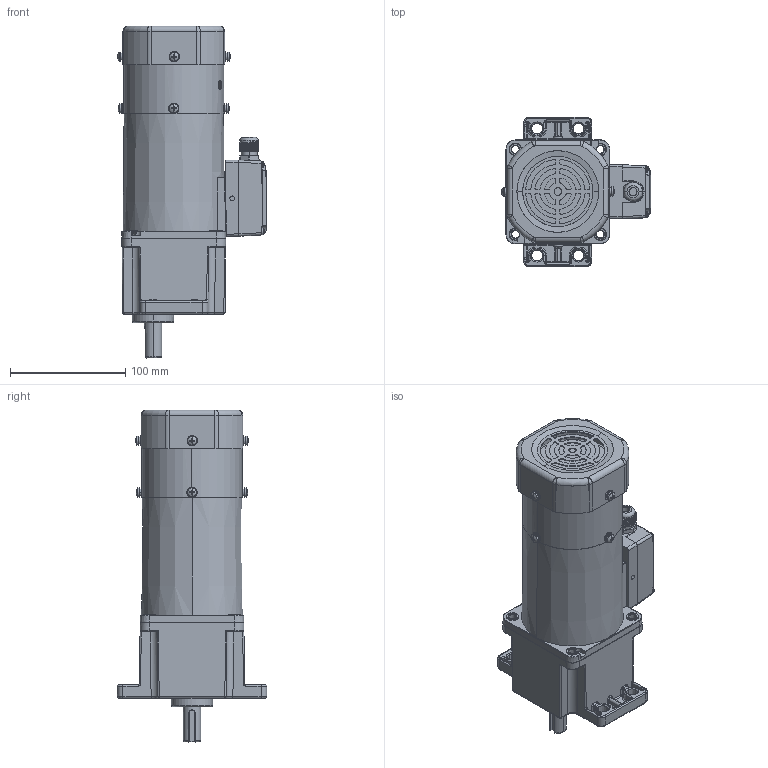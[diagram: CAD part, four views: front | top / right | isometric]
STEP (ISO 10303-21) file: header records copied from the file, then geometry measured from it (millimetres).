
FILE_DESCRIPTION (( 'STEP AP203' ), '1' );
FILE_NAME ('5RK120GU-CMFT(5GU3K-200K).STEP', '2023-08-09T02:53:14', ( 'Windows User' ), ( 'P R C' ), 'SwSTEP 2.0', 'SolidWorks 2019', '' );
FILE_SCHEMA (( 'CONFIG_CONTROL_DESIGN' ));
Length unit declared in the file: millimetre
Products named in the file (15): ^_5GU3K-200K_5RK120GU-CMFT(5GU3K-200K)(2)_5RK120GU-CMFT(5GU3K-200K); 5RK120GU-CMFT(5GU3K-200K); ^5RK120GU-CMFT(5GU3K-200K)(2)_5RK120GU-CMFT(5GU3K-200K); ^5GU3K-200K_5RK120GU-CMFT(5GU3K-200K)(2)_5RK120GU-CMFT(5GU3K-200K); ^___5RK120GU-CMFT(5GU3K-200K)(2)_5RK120GU-CMFT(5GU3K-200K); 5RK120GU-CMFT(5GU3K-200K)(2)^5RK120GU-CMFT(5GU3K-200K); 葩璃 (3) ^__5RK120GU-CMFT(5GU3K-200K)(2)_5RK120GU-CMFT(5GU3K-200K); 葩璃 (2) ^__5RK120GU-CMFT(5GU3K-200K)(2)_5RK120GU-CMFT(5GU3K-200K); ^__5RK120GU-CMFT(5GU3K-200K)(2)_5RK120GU-CMFT(5GU3K-200K); ^____5RK120GU-CMFT(5GU3K-200K)(2)_5RK120GU-CMFT(5GU3K-200K); 葩璃 (3) ^____5RK120GU-CMFT(5GU3K-200K)(2)_5RK120GU-CMFT(5GU3K-200K); 5GU3K-200K^5RK120GU-CMFT(5GU3K-200K)(2)_5RK120GU-CMFT(5GU3K-200K); ^_5RK120GU-CMFT(5GU3K-200K)(2)_5RK120GU-CMFT(5GU3K-200K); 葩璃 (2) ^____5RK120GU-CMFT(5GU3K-200K)(2)_5RK120GU-CMFT(5GU3K-200K)
Assembly tree (17 placements, depth 7):
  5RK120GU-CMFT(5GU3K-200K)
    5RK120GU-CMFT(5GU3K-200K)(2)^5RK120GU-CMFT(5GU3K-200K)
      ^5RK120GU-CMFT(5GU3K-200K)(2)_5RK120GU-CMFT(5GU3K-200K)
        ^_5RK120GU-CMFT(5GU3K-200K)(2)_5RK120GU-CMFT(5GU3K-200K)
          ^__5RK120GU-CMFT(5GU3K-200K)(2)_5RK120GU-CMFT(5GU3K-200K)
            ^___5RK120GU-CMFT(5GU3K-200K)(2)_5RK120GU-CMFT(5GU3K-200K)
              ^____5RK120GU-CMFT(5GU3K-200K)(2)_5RK120GU-CMFT(5GU3K-200K)
              葩璃 (2) ^____5RK120GU-CMFT(5GU3K-200K)(2)_5RK120GU-CMFT(5GU3K-200K)
              葩璃 (3) ^____5RK120GU-CMFT(5GU3K-200K)(2)_5RK120GU-CMFT(5GU3K-200K)  x4
          ^__5RK120GU-CMFT(5GU3K-200K)(2)_5RK120GU-CMFT(5GU3K-200K)
          葩璃 (2) ^__5RK120GU-CMFT(5GU3K-200K)(2)_5RK120GU-CMFT(5GU3K-200K)
          葩璃 (3) ^__5RK120GU-CMFT(5GU3K-200K)(2)_5RK120GU-CMFT(5GU3K-200K)
      5GU3K-200K^5RK120GU-CMFT(5GU3K-200K)(2)_5RK120GU-CMFT(5GU3K-200K)
        ^5GU3K-200K_5RK120GU-CMFT(5GU3K-200K)(2)_5RK120GU-CMFT(5GU3K-200K)
          ^_5GU3K-200K_5RK120GU-CMFT(5GU3K-200K)(2)_5RK120GU-CMFT(5GU3K-200K)
Bounding box: 129.3 x 129.97 x 288 mm (x, y, z)
Volume: 1367178.7 mm3; surface area: 198072.9 mm2
Topology: 34 solids, 34 shells, 2052 faces, 5209 edges, 3219 vertices
Faces by surface type: cylinder 808, plane 493, cone 411, bspline 133, torus 116, sphere 91
Entity records: 64035 total; most frequent: CARTESIAN_POINT 23069, ORIENTED_EDGE 8318, DIRECTION 8309, EDGE_CURVE 4159, AXIS2_PLACEMENT_3D 3368, VERTEX_POINT 2602, CIRCLE 1810, EDGE_LOOP 1795
